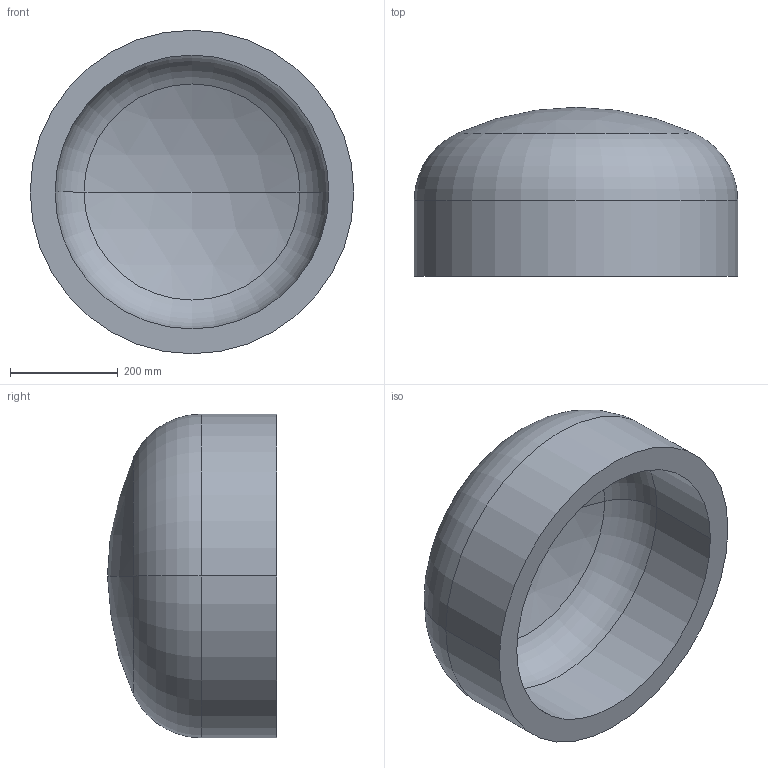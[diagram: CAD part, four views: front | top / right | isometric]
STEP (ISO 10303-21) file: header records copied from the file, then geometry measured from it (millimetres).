
FILE_DESCRIPTION (( 'STEP AP203' ), '1' );
FILE_NAME ('DIN 28013 Korbbogenform_-_Boden DIN 28013 - 600 x 140 - I - s=46.step', '2016-07-01T08:01:04', ( '' ), ( '' ), 'SwSTEP 2.0', 'SolidWorks 2013', '' );
FILE_SCHEMA (( 'CONFIG_CONTROL_DESIGN' ));
Length unit declared in the file: millimetre
Products named in the file (1): DIN 28013 Korbbogenform_-_Boden DIN 28013 - 600 x 140 - I - s=46
Bounding box: 600 x 313.44 x 600 mm (x, y, z)
Volume: 27550464.5 mm3; surface area: 1282338.2 mm2
Topology: 1 solids, 1 shells, 13 faces, 24 edges, 14 vertices
Faces by surface type: torus 4, cylinder 4, sphere 4, plane 1
Entity records: 407 total; most frequent: DIRECTION 72, CARTESIAN_POINT 52, ORIENTED_EDGE 48, AXIS2_PLACEMENT_3D 34, EDGE_CURVE 24, CIRCLE 20, EDGE_LOOP 14, VERTEX_POINT 14
